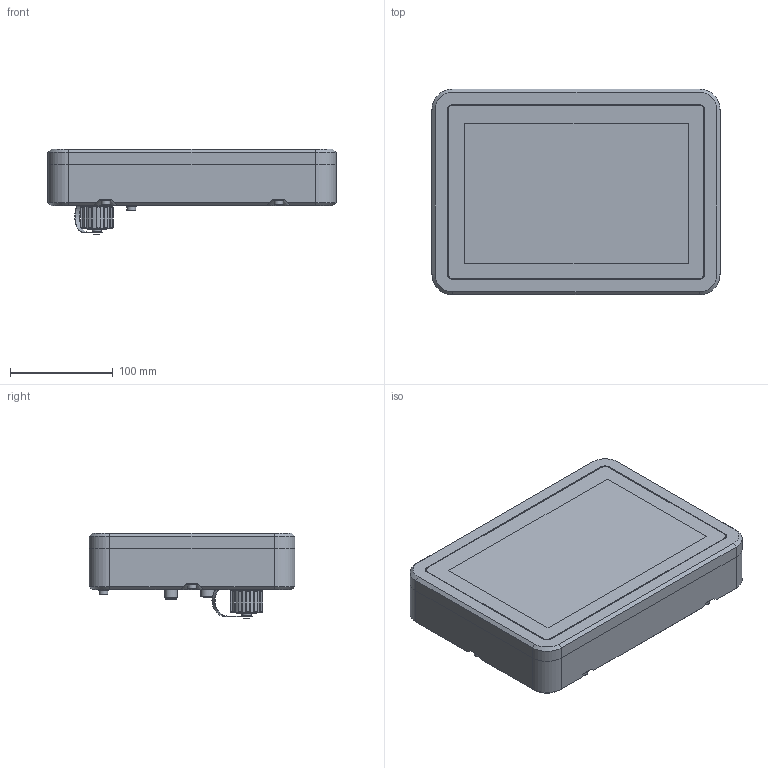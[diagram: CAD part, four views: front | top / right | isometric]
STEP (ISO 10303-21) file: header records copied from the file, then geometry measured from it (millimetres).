
FILE_DESCRIPTION(/* description */ (''),/* implementation_level */ '2;1');
FILE_NAME(/* name */ 'D:\Modelle vereinfacht\notion.H\778-61996-00\778-61996-00_EXTERN.stp',/* time_stamp */ '2024-04-17T13:59:11+02:00',/* author */ ('Blessing'),/* organization */ (''),/* preprocessor_version */ 'ST-DEVELOPER v18.1',/* originating_system */ 'Autodesk Inventor 2021',/* authorisation */ '');
FILE_SCHEMA (('AUTOMOTIVE_DESIGN { 1 0 10303 214 3 1 1 }'));
Products named in the file (1): 778-61996-00_EXTERN
Bounding box: 280 x 200 x 83.5 mm (x, y, z)
Volume: 3012727.6 mm3; surface area: 267830 mm2
Topology: 1 solids, 50 shells, 2521 faces, 6581 edges, 4280 vertices
Faces by surface type: plane 1445, cylinder 645, bspline 178, cone 160, torus 83, sphere 10
Full cylindrical faces by diameter (mm): 0.7 x8, 1.1 x5, 1.2 x3, 1.5 x4, 1.839 x1, 2.261 x2, 2.459 x1, 2.55 x3, 2.845 x2, 3.2 x2, 3.4 x4, 4.134 x9, 4.6 x2, 5 x9, 5.1 x6, 5.3 x2, 5.5 x7, 6.1 x1, 8.5 x7, 9 x1, 10 x1, 10.35 x6, 10.4 x1, 10.75 x1, 12 x2, 15.2 x1, 15.5 x1, 19 x1, 22 x1, 22.5 x1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
Entity records: 93799 total; most frequent: CARTESIAN_POINT 29718, ORIENTED_EDGE 13128, DIRECTION 12035, EDGE_CURVE 6564, LINE 4289, VECTOR 4289, VERTEX_POINT 4280, AXIS2_PLACEMENT_3D 3873
